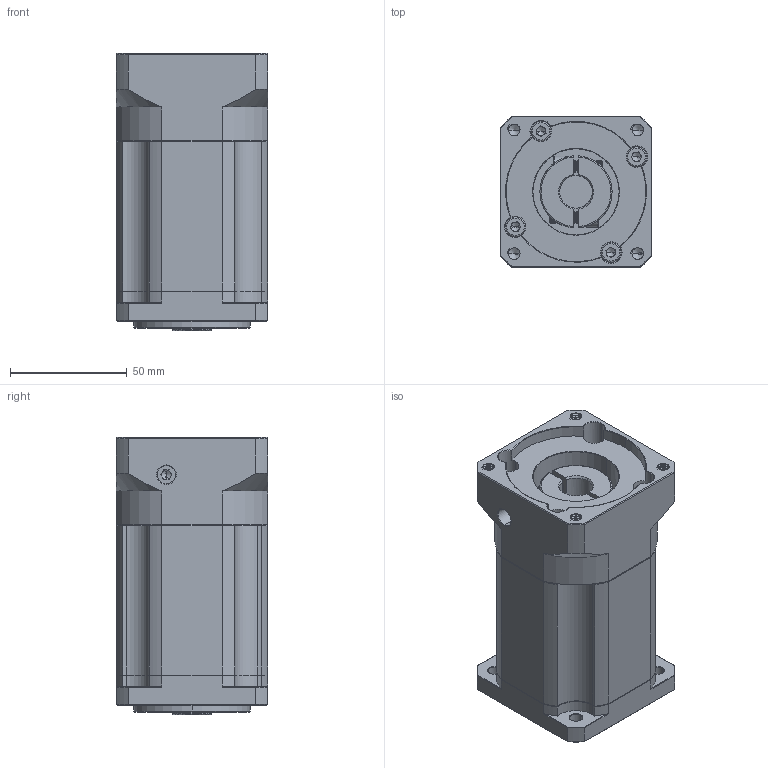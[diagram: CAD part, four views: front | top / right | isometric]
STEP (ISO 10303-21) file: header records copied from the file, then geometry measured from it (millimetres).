
FILE_DESCRIPTION (( 'STEP AP214' ), '1' );
FILE_NAME ('ZB60-K10-L3-14-60-75-M6.STEP', '2022-04-17T07:41:15', ( '' ), ( 'Microsoft' ), 'SwSTEP 2.0', 'SolidWorks 2016', '' );
FILE_SCHEMA (( 'AUTOMOTIVE_DESIGN' ));
Length unit declared in the file: millimetre
Products named in the file (1): ZB60-K10-L3-14-60-75-M6
Bounding box: 65 x 65 x 119 mm (x, y, z)
Volume: 378064.7 mm3; surface area: 61928.9 mm2
Topology: 6 solids, 6 shells, 1837 faces, 4878 edges, 3123 vertices
Faces by surface type: plane 876, cylinder 353, bspline 292, cone 282, torus 34
Entity records: 95823 total; most frequent: CARTESIAN_POINT 32049, ORIENTED_EDGE 9700, DIRECTION 8061, EDGE_CURVE 4850, VERTEX_POINT 3123, VECTOR 2995, LINE 2995, AXIS2_PLACEMENT_3D 2533
